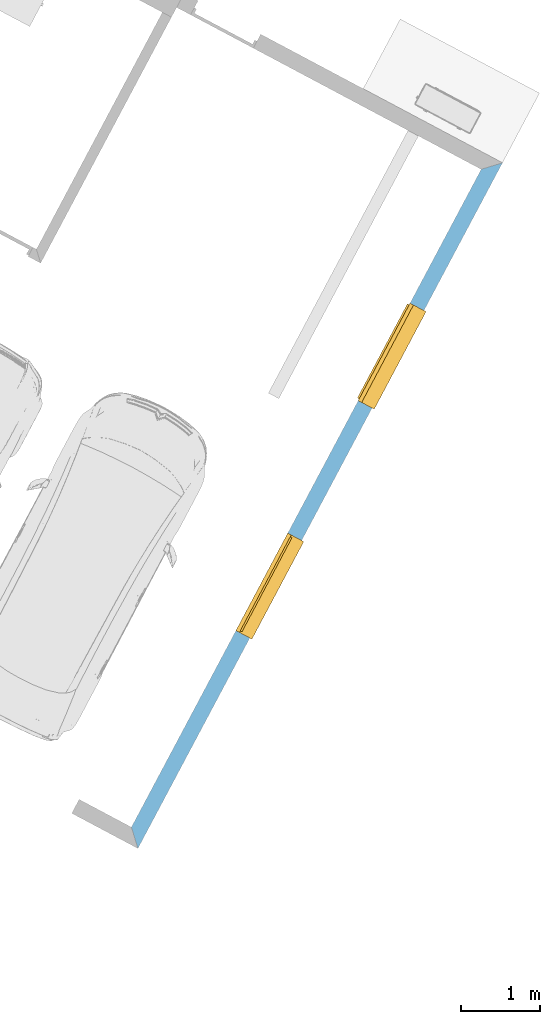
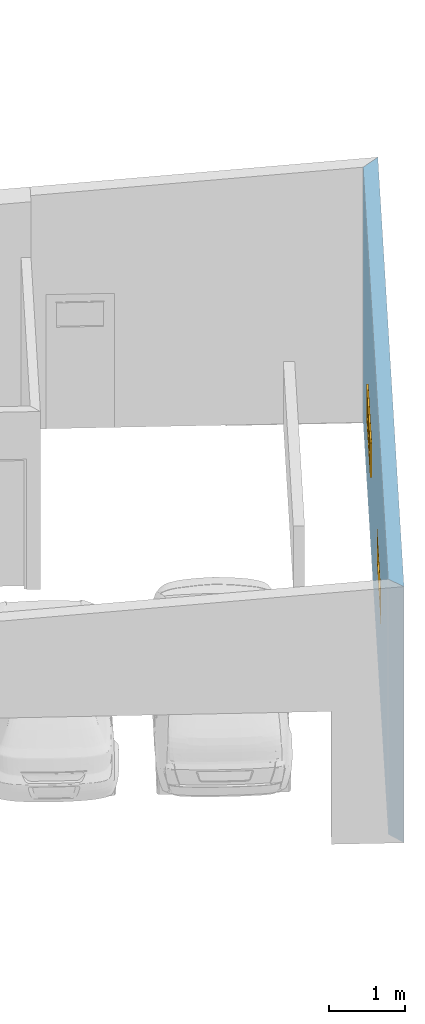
# One storey, part 10 of 27: 2 windows, 2 openings, plus 1 element that does not belong to this part.
"""IFC2X3 building model written with IfcOpenShell, lengths in metres."""

from ifc_helpers import new_model, entity, si_unit, converted_unit, derived_unit, money_unit, direction, frame, origin_with_axes, origin_2d_with_axis, place, context, subcontext, project, spatial, polyline, rectangle, outline, extrude, clip, halfspace, open_shell, faceted_brep, surface_model, material, layer, layer_set, layer_usage, type_object, element, fill, save


model = new_model("IFC2X3")

# Units and contexts
model_context = context("Model", 3, precision=1e-05, world=origin_with_axes(), true_north=direction((0.0, 1.0)))
body_context = subcontext(model_context, "Body", "Model", "MODEL_VIEW")
ifc_project = project(units=[si_unit("LENGTHUNIT", "METRE"), si_unit("AREAUNIT", "SQUARE_METRE"), si_unit("VOLUMEUNIT", "CUBIC_METRE"), converted_unit("PLANEANGLEUNIT", "DEGREE", entity("IfcPlaneAngleMeasure", 0.0174532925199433), si_unit("PLANEANGLEUNIT", "RADIAN"), dimensions=[0, 0, 0, 0, 0, 0, 0]), money_unit("CHF"), converted_unit("TIMEUNIT", "Year", entity("IfcTimeMeasure", 31557600.0), si_unit("TIMEUNIT", "SECOND"), dimensions=[0, 0, 1, 0, 0, 0, 0]), si_unit("MASSUNIT", "GRAM", prefix="KILO"), si_unit("THERMODYNAMICTEMPERATUREUNIT", "DEGREE_CELSIUS"), si_unit("LUMINOUSINTENSITYUNIT", "LUMEN"), si_unit("ENERGYUNIT", "JOULE", prefix="MEGA"), derived_unit("THERMALCONDUCTANCEUNIT", [(si_unit("POWERUNIT", "WATT"), 1), (si_unit("LENGTHUNIT", "METRE"), -1), (si_unit("THERMODYNAMICTEMPERATUREUNIT", "KELVIN"), -1)]), derived_unit("SPECIFICHEATCAPACITYUNIT", [(si_unit("ENERGYUNIT", "JOULE"), 1), (si_unit("MASSUNIT", "GRAM", prefix="KILO"), -1), (si_unit("THERMODYNAMICTEMPERATUREUNIT", "KELVIN"), -1)]), derived_unit("MASSDENSITYUNIT", [(si_unit("MASSUNIT", "GRAM", prefix="KILO"), 1), (si_unit("VOLUMEUNIT", "CUBIC_METRE"), -1)])], contexts=[model_context])

# Site, building, storey
site_placement = place(None, frame((0.0, 0.0, 0.0), z_axis=(0.0, 0.0, 1.0), x_axis=(-0.4694715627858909, -0.8829475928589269, 0.0)))
site = spatial("IfcSite", under=ifc_project, at=site_placement, Name="Site", CompositionType="ELEMENT")
building_placement = place(site_placement, origin_with_axes())
building = spatial("IfcBuilding", under=site, at=building_placement, Name="Bâtiment", CompositionType="ELEMENT")
storey_placement = place(building_placement, origin_with_axes())
storey = spatial("IfcBuildingStorey", under=building, at=storey_placement, Name="RDC", CompositionType="ELEMENT", Elevation=0.0)

# Wall, openings, windows
ifc_material = material(Name="Maçonnerie 290464332")
ifc_layer = layer(ifc_material, 0.2, ventilated="UNKNOWN")
ifc_layer_set = layer_set([ifc_layer], Name="MUR EXT 20 0024849982")
ifc_layer_usage = layer_usage(ifc_layer_set, "AXIS2", "POSITIVE", 0.0)
wall_type = type_object("IfcWallType", Name="MUR EXT 20 0024849982 200", PredefinedType="NOTDEFINED")
wall_placement = place(storey_placement, frame((143.5295710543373, -821.9945991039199, 0.0), z_axis=(0.0, 0.0, 1.0), x_axis=(-1.0, 0.0, 0.0)))
wall = element("IfcWallStandardCase", 1, at=wall_placement, inside=storey, type_object=wall_type, material=ifc_layer_usage, Name="Mur-394", context=body_context, shape_type="Clipping", body=[
    clip(extrude(outline(polyline([(0.0, 0.0), (9.840000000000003, 0.0), (9.640000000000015, 0.2000000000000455), (0.1999999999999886, 0.2000000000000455), (0.0, 0.0)])), origin_with_axes(), (0.0, 0.0, 1.0), 5.0), halfspace(frame((0.0, 0.326550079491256, 4.0818759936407), z_axis=(0.0, -0.07974522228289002, -0.9968152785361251), x_axis=(0.0, 0.9968152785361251, -0.07974522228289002)), True)),
])
opening_1_placement = place(wall_placement, frame((7.019999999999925, 0.0, 1.4), z_axis=(0.0, 0.0, 1.0), x_axis=(1.0, 0.0, 0.0)))
opening_1 = element("IfcOpeningElement", 2, at=opening_1_placement, cuts=wall, Name="Fen-157", context=body_context, shape_type="SweptSolid", body=[
    extrude(rectangle(XDim=1.399999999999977, YDim=0.5999999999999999, at=origin_2d_with_axis()), frame((0.0, -0.2000000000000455, 0.2999999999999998), z_axis=(0.0, 1.0, 0.0), x_axis=(-1.0, 0.0, 0.0)), (0.0, 0.0, 1.0), 0.6000000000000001),
])
opening_2_placement = place(wall_placement, frame((3.719999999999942, 0.0, 1.4), z_axis=(0.0, 0.0, 1.0), x_axis=(1.0, 0.0, 0.0)))
opening_2 = element("IfcOpeningElement", 3, at=opening_2_placement, cuts=wall, Name="Fen-157", context=body_context, shape_type="SweptSolid", body=[
    extrude(rectangle(XDim=1.399999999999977, YDim=0.5999999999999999, at=origin_2d_with_axis()), frame((0.0, -0.2000000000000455, 0.2999999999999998), z_axis=(0.0, 1.0, 0.0), x_axis=(1.0, 0.0, 0.0)), (0.0, 0.0, 1.0), 0.6000000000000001),
])
window_style = type_object("IfcWindowStyle", Name="Fen châssis simple 10", ConstructionType="NOTDEFINED", OperationType="SINGLE_PANEL", ParameterTakesPrecedence=False, Sizeable=False)
window_1_placement = place(opening_1_placement, frame((0.700000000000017, 0.0, 0.0), z_axis=(0.0, 0.0, 1.0), x_axis=(-1.0, 0.0, 0.0)))
window_1 = element("IfcWindow", 4, at=window_1_placement, inside=storey, type_object=window_style, Name="Fen-157", OverallHeight=0.6, OverallWidth=1.4, context=body_context, shape_type="SurfaceModel", body=[
    faceted_brep([(1.399999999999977, -0.1499999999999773, 0.0), (1.399999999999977, 0.0, 0.0), (1.399999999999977, 0.0, 0.01713883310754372), (1.399999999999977, -0.1499999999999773, 0.02499999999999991), (0.0, -0.1499999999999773, 0.0), (0.0, 0.0, 0.0), (0.0, 0.02999999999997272, 0.0), (1.399999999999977, 0.02999999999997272, 0.0), (1.399999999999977, 0.02999999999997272, 0.01556659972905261), (0.0, 0.02999999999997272, 0.01556659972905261), (0.0, 0.0, 0.01713883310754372), (0.0, -0.1499999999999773, 0.02499999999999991)], [[[0, 1, 2, 3]], [[0, 4, 5, 6, 7, 1]], [[1, 7, 8, 2]], [[3, 2, 8, 9, 10, 11]], [[4, 0, 3, 11]], [[5, 4, 11, 10]], [[6, 5, 10, 9]], [[7, 6, 9, 8]]]),
    faceted_brep([(0.04999999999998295, -0.1999999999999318, 0.5499999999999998), (0.04999999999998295, -0.1499999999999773, 0.5499999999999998), (0.0, -0.1499999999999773, 0.5499999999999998), (0.0, -0.1999999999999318, 0.5499999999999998), (0.04999999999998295, -0.1999999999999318, 0.05000000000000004), (0.04999999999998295, -0.1499999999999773, 0.05000000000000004), (0.0, -0.1499999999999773, 0.05000000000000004), (0.0, -0.1999999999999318, 0.05000000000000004)], [[[0, 1, 2, 3]], [[4, 5, 1, 0]], [[2, 1, 5, 6]], [[3, 2, 6, 7]], [[4, 0, 3, 7]], [[7, 6, 5, 4]]]),
    faceted_brep([(1.349999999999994, -0.1999999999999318, 0.05000000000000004), (1.349999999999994, -0.1499999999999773, 0.05000000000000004), (1.399999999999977, -0.1499999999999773, 0.05000000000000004), (1.399999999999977, -0.1999999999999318, 0.05000000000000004), (1.349999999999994, -0.1999999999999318, 0.5499999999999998), (1.349999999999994, -0.1499999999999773, 0.5499999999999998), (1.399999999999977, -0.1499999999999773, 0.5499999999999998), (1.399999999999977, -0.1999999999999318, 0.5499999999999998)], [[[0, 1, 2, 3]], [[4, 5, 1, 0]], [[2, 1, 5, 6]], [[3, 2, 6, 7]], [[4, 0, 3, 7]], [[7, 6, 5, 4]]]),
    faceted_brep([(1.349999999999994, -0.1999999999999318, 0.5499999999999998), (1.349999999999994, -0.1499999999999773, 0.5499999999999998), (1.399999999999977, -0.1499999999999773, 0.5499999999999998), (1.399999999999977, -0.1999999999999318, 0.5499999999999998), (0.04999999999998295, -0.1999999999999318, 0.5499999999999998), (0.04999999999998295, -0.1499999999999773, 0.5499999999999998), (0.0, -0.1499999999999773, 0.5499999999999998), (0.0, -0.1499999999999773, 0.6000000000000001), (1.399999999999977, -0.1499999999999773, 0.6000000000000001), (1.399999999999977, -0.1999999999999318, 0.6000000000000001), (0.0, -0.1999999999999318, 0.6000000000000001), (0.0, -0.1999999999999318, 0.5499999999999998)], [[[0, 1, 2, 3]], [[4, 5, 1, 0]], [[2, 1, 5, 6, 7, 8]], [[3, 2, 8, 9]], [[4, 0, 3, 9, 10, 11]], [[11, 6, 5, 4]], [[10, 7, 6, 11]], [[9, 8, 7, 10]]]),
    faceted_brep([(0.04999999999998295, -0.1999999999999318, 0.05000000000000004), (0.04999999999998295, -0.1499999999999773, 0.05000000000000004), (0.0, -0.1499999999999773, 0.05000000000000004), (0.0, -0.1999999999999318, 0.05000000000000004), (1.349999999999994, -0.1999999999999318, 0.05000000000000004), (1.349999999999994, -0.1499999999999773, 0.05000000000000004), (1.399999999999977, -0.1499999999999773, 0.05000000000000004), (1.399999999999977, -0.1499999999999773, 0.0), (0.0, -0.1499999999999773, 0.0), (0.0, -0.1999999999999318, 0.0), (1.399999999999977, -0.1999999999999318, 0.0), (1.399999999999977, -0.1999999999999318, 0.05000000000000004)], [[[0, 1, 2, 3]], [[4, 5, 1, 0]], [[2, 1, 5, 6, 7, 8]], [[3, 2, 8, 9]], [[4, 0, 3, 9, 10, 11]], [[11, 6, 5, 4]], [[10, 7, 6, 11]], [[9, 8, 7, 10]]]),
    faceted_brep([(1.324999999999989, -0.1749999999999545, 0.07499999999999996), (1.324999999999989, -0.2250000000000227, 0.07499999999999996), (1.324999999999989, -0.2250000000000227, 0.5249999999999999), (1.324999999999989, -0.1749999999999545, 0.5249999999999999), (1.375, -0.1749999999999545, 0.07499999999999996), (1.375, -0.2250000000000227, 0.07499999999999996), (1.375, -0.2250000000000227, 0.5249999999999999), (1.375, -0.1749999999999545, 0.5249999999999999)], [[[0, 1, 2, 3]], [[4, 5, 1, 0]], [[1, 5, 6, 2]], [[3, 2, 6, 7]], [[0, 3, 7, 4]], [[7, 6, 5, 4]]]),
    faceted_brep([(0.02499999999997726, -0.1749999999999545, 0.07499999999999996), (0.02499999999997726, -0.2250000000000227, 0.07499999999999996), (0.02499999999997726, -0.2250000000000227, 0.5249999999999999), (0.02499999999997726, -0.1749999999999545, 0.5249999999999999), (0.07499999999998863, -0.1749999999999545, 0.07499999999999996), (0.07499999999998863, -0.2250000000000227, 0.07499999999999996), (0.07499999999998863, -0.2250000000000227, 0.5249999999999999), (0.07499999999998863, -0.1749999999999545, 0.5249999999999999)], [[[0, 1, 2, 3]], [[4, 5, 1, 0]], [[1, 5, 6, 2]], [[3, 2, 6, 7]], [[0, 3, 7, 4]], [[7, 6, 5, 4]]]),
    faceted_brep([(0.02499999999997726, -0.1749999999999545, 0.02499999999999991), (0.02499999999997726, -0.2250000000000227, 0.02499999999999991), (0.02499999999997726, -0.2250000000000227, 0.07499999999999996), (0.02499999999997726, -0.1749999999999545, 0.07499999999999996), (1.375, -0.1749999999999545, 0.02499999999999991), (1.375, -0.2250000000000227, 0.02499999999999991), (1.375, -0.2250000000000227, 0.07499999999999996), (1.324999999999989, -0.2250000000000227, 0.07499999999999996), (0.07499999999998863, -0.2250000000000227, 0.07499999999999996), (0.07499999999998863, -0.1749999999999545, 0.07499999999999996), (1.324999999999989, -0.1749999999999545, 0.07499999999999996), (1.375, -0.1749999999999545, 0.07499999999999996)], [[[0, 1, 2, 3]], [[4, 5, 1, 0]], [[1, 5, 6, 7, 8, 2]], [[3, 2, 8, 9]], [[0, 3, 9, 10, 11, 4]], [[11, 6, 5, 4]], [[10, 7, 6, 11]], [[9, 8, 7, 10]]]),
    faceted_brep([(1.375, -0.1749999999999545, 0.575), (1.375, -0.2250000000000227, 0.575), (1.375, -0.2250000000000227, 0.5249999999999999), (1.375, -0.1749999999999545, 0.5249999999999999), (0.02499999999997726, -0.1749999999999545, 0.575), (0.02499999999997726, -0.2250000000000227, 0.575), (0.02499999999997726, -0.2250000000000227, 0.5249999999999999), (0.07499999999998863, -0.2250000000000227, 0.5249999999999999), (1.324999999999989, -0.2250000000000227, 0.5249999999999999), (1.324999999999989, -0.1749999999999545, 0.5249999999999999), (0.07499999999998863, -0.1749999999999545, 0.5249999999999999), (0.02499999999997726, -0.1749999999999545, 0.5249999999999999)], [[[0, 1, 2, 3]], [[4, 5, 1, 0]], [[1, 5, 6, 7, 8, 2]], [[3, 2, 8, 9]], [[0, 3, 9, 10, 11, 4]], [[11, 6, 5, 4]], [[10, 7, 6, 11]], [[9, 8, 7, 10]]]),
    surface_model("IfcShellBasedSurfaceModel", [(1.324999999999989, -0.1899999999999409, 0.07499999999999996), (0.07499999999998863, -0.1899999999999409, 0.07499999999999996), (0.07499999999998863, -0.1899999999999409, 0.5249999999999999), (1.324999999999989, -0.1899999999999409, 0.5249999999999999)], [open_shell([[[0, 1, 2, 3]]])]),
    surface_model("IfcShellBasedSurfaceModel", [(1.324999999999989, -0.2099999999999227, 0.07499999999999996), (1.324999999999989, -0.2099999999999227, 0.5249999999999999), (0.07499999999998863, -0.2099999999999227, 0.5249999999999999), (0.07499999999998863, -0.2099999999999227, 0.07499999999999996)], [open_shell([[[0, 1, 2, 3]]])]),
])
fill(opening_1, window_1)
window_2_placement = place(opening_2_placement, frame((-0.6999999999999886, 0.0, 0.0), z_axis=(0.0, 0.0, 1.0), x_axis=(1.0, 0.0, 0.0)))
window_2 = element("IfcWindow", 5, at=window_2_placement, inside=storey, type_object=window_style, Name="Fen-157", OverallHeight=0.6, OverallWidth=1.4, context=body_context, shape_type="SurfaceModel", body=[
    faceted_brep([(1.399999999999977, 0.1500000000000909, 0.0), (1.399999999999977, 0.1500000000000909, 0.02499999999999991), (1.399999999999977, 0.0, 0.01713883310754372), (1.399999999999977, 0.0, 0.0), (0.0, 0.1500000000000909, 0.0), (0.0, 0.1500000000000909, 0.02499999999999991), (0.0, 0.0, 0.01713883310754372), (0.0, -0.02999999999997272, 0.01556659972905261), (1.399999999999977, -0.02999999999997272, 0.01556659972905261), (1.399999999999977, -0.02999999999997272, 0.0), (0.0, -0.02999999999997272, 0.0), (0.0, 0.0, 0.0)], [[[0, 1, 2, 3]], [[4, 5, 1, 0]], [[1, 5, 6, 7, 8, 2]], [[3, 2, 8, 9]], [[0, 3, 9, 10, 11, 4]], [[11, 6, 5, 4]], [[10, 7, 6, 11]], [[9, 8, 7, 10]]]),
    faceted_brep([(0.04999999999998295, 0.1500000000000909, 0.5499999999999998), (0.04999999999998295, 0.2000000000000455, 0.5499999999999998), (0.0, 0.2000000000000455, 0.5499999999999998), (0.0, 0.1500000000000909, 0.5499999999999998), (0.04999999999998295, 0.1500000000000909, 0.05000000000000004), (0.04999999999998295, 0.2000000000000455, 0.05000000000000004), (0.0, 0.2000000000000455, 0.05000000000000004), (0.0, 0.1500000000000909, 0.05000000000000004)], [[[0, 1, 2, 3]], [[4, 5, 1, 0]], [[2, 1, 5, 6]], [[3, 2, 6, 7]], [[4, 0, 3, 7]], [[7, 6, 5, 4]]]),
    faceted_brep([(1.349999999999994, 0.1500000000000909, 0.05000000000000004), (1.349999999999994, 0.2000000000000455, 0.05000000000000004), (1.399999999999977, 0.2000000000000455, 0.05000000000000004), (1.399999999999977, 0.1500000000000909, 0.05000000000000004), (1.349999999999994, 0.1500000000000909, 0.5499999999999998), (1.349999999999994, 0.2000000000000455, 0.5499999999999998), (1.399999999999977, 0.2000000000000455, 0.5499999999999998), (1.399999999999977, 0.1500000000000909, 0.5499999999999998)], [[[0, 1, 2, 3]], [[4, 5, 1, 0]], [[2, 1, 5, 6]], [[3, 2, 6, 7]], [[4, 0, 3, 7]], [[7, 6, 5, 4]]]),
    faceted_brep([(1.349999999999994, 0.1500000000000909, 0.5499999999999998), (1.349999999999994, 0.2000000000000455, 0.5499999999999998), (1.399999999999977, 0.2000000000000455, 0.5499999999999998), (1.399999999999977, 0.1500000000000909, 0.5499999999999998), (0.04999999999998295, 0.1500000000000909, 0.5499999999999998), (0.04999999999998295, 0.2000000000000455, 0.5499999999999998), (0.0, 0.2000000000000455, 0.5499999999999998), (0.0, 0.2000000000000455, 0.6000000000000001), (1.399999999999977, 0.2000000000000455, 0.6000000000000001), (1.399999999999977, 0.1500000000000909, 0.6000000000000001), (0.0, 0.1500000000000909, 0.6000000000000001), (0.0, 0.1500000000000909, 0.5499999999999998)], [[[0, 1, 2, 3]], [[4, 5, 1, 0]], [[2, 1, 5, 6, 7, 8]], [[3, 2, 8, 9]], [[4, 0, 3, 9, 10, 11]], [[11, 6, 5, 4]], [[10, 7, 6, 11]], [[9, 8, 7, 10]]]),
    faceted_brep([(0.04999999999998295, 0.1500000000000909, 0.05000000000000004), (0.04999999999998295, 0.2000000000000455, 0.05000000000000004), (0.0, 0.2000000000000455, 0.05000000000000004), (0.0, 0.1500000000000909, 0.05000000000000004), (1.349999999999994, 0.1500000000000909, 0.05000000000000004), (1.349999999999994, 0.2000000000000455, 0.05000000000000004), (1.399999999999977, 0.2000000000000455, 0.05000000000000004), (1.399999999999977, 0.2000000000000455, 0.0), (0.0, 0.2000000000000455, 0.0), (0.0, 0.1500000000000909, 0.0), (1.399999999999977, 0.1500000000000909, 0.0), (1.399999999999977, 0.1500000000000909, 0.05000000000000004)], [[[0, 1, 2, 3]], [[4, 5, 1, 0]], [[2, 1, 5, 6, 7, 8]], [[3, 2, 8, 9]], [[4, 0, 3, 9, 10, 11]], [[11, 6, 5, 4]], [[10, 7, 6, 11]], [[9, 8, 7, 10]]]),
    faceted_brep([(1.324999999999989, 0.1750000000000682, 0.07499999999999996), (1.324999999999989, 0.125, 0.07499999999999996), (1.324999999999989, 0.125, 0.5249999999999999), (1.324999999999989, 0.1750000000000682, 0.5249999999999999), (1.375, 0.1750000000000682, 0.07499999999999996), (1.375, 0.125, 0.07499999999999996), (1.375, 0.125, 0.5249999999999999), (1.375, 0.1750000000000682, 0.5249999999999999)], [[[0, 1, 2, 3]], [[4, 5, 1, 0]], [[1, 5, 6, 2]], [[3, 2, 6, 7]], [[0, 3, 7, 4]], [[7, 6, 5, 4]]]),
    faceted_brep([(0.02499999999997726, 0.1750000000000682, 0.07499999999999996), (0.02499999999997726, 0.125, 0.07499999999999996), (0.02499999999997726, 0.125, 0.5249999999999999), (0.02499999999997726, 0.1750000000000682, 0.5249999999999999), (0.07499999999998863, 0.1750000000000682, 0.07499999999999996), (0.07499999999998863, 0.125, 0.07499999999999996), (0.07499999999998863, 0.125, 0.5249999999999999), (0.07499999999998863, 0.1750000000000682, 0.5249999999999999)], [[[0, 1, 2, 3]], [[4, 5, 1, 0]], [[1, 5, 6, 2]], [[3, 2, 6, 7]], [[0, 3, 7, 4]], [[7, 6, 5, 4]]]),
    faceted_brep([(0.02499999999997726, 0.1750000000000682, 0.02499999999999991), (0.02499999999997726, 0.125, 0.02499999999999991), (0.02499999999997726, 0.125, 0.07499999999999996), (0.02499999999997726, 0.1750000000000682, 0.07499999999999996), (1.375, 0.1750000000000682, 0.02499999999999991), (1.375, 0.125, 0.02499999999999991), (1.375, 0.125, 0.07499999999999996), (1.324999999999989, 0.125, 0.07499999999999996), (0.07499999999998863, 0.125, 0.07499999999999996), (0.07499999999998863, 0.1750000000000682, 0.07499999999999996), (1.324999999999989, 0.1750000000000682, 0.07499999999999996), (1.375, 0.1750000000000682, 0.07499999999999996)], [[[0, 1, 2, 3]], [[4, 5, 1, 0]], [[1, 5, 6, 7, 8, 2]], [[3, 2, 8, 9]], [[0, 3, 9, 10, 11, 4]], [[11, 6, 5, 4]], [[10, 7, 6, 11]], [[9, 8, 7, 10]]]),
    faceted_brep([(1.375, 0.1750000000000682, 0.575), (1.375, 0.125, 0.575), (1.375, 0.125, 0.5249999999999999), (1.375, 0.1750000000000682, 0.5249999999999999), (0.02499999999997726, 0.1750000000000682, 0.575), (0.02499999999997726, 0.125, 0.575), (0.02499999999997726, 0.125, 0.5249999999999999), (0.07499999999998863, 0.125, 0.5249999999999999), (1.324999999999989, 0.125, 0.5249999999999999), (1.324999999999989, 0.1750000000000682, 0.5249999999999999), (0.07499999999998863, 0.1750000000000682, 0.5249999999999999), (0.02499999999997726, 0.1750000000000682, 0.5249999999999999)], [[[0, 1, 2, 3]], [[4, 5, 1, 0]], [[1, 5, 6, 7, 8, 2]], [[3, 2, 8, 9]], [[0, 3, 9, 10, 11, 4]], [[11, 6, 5, 4]], [[10, 7, 6, 11]], [[9, 8, 7, 10]]]),
    surface_model("IfcShellBasedSurfaceModel", [(1.324999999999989, 0.1600000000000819, 0.07499999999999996), (0.07499999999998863, 0.1600000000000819, 0.07499999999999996), (0.07499999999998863, 0.1600000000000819, 0.5249999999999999), (1.324999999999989, 0.1600000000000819, 0.5249999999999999)], [open_shell([[[0, 1, 2, 3]]])]),
    surface_model("IfcShellBasedSurfaceModel", [(1.324999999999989, 0.1400000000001, 0.07499999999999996), (1.324999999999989, 0.1400000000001, 0.5249999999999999), (0.07499999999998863, 0.1400000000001, 0.5249999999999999), (0.07499999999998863, 0.1400000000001, 0.07499999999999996)], [open_shell([[[0, 1, 2, 3]]])]),
])
fill(opening_2, window_2)

save(model, "model.ifc")
